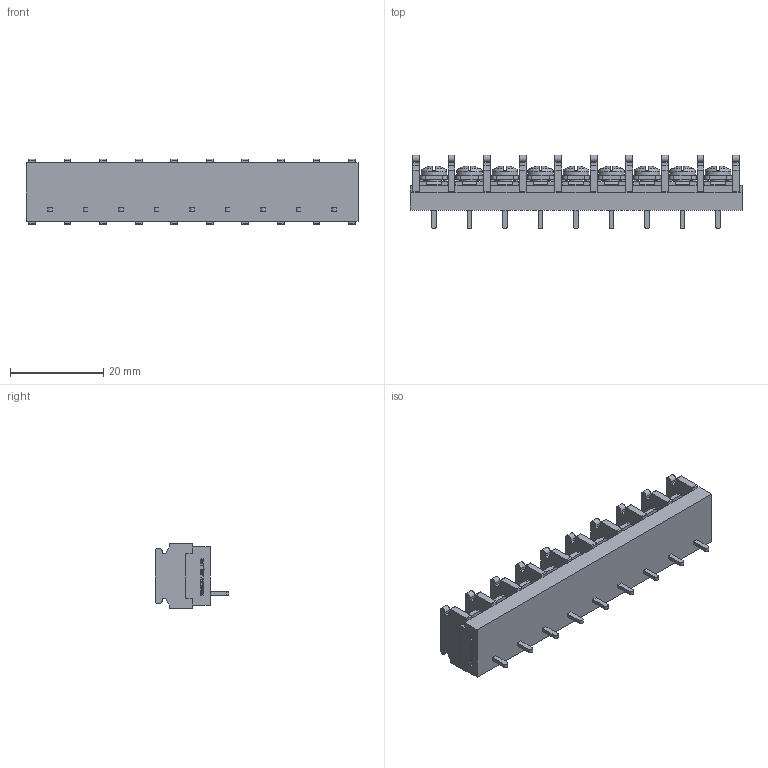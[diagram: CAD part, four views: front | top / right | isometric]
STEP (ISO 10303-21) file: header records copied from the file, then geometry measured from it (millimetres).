
FILE_DESCRIPTION(/* description */ ('Alibre Inc.'),/* implementation_level */ '2;1');
FILE_NAME(/* name */ 'export0',/* time_stamp */ '2015-10-23T19:30:23+09:00',/* author */ (''),/* organization */ (''),/* preprocessor_version */ 'ST-DEVELOPER v14',/* originating_system */ 'Alibre',/* authorisation */ '');
FILE_SCHEMA (('CONFIG_CONTROL_DESIGN'));
Length unit declared in the file: centimetre
Products named in the file (1): ID_1
Bounding box: 71.2 x 15.8 x 14 mm (x, y, z)
Volume: 6731.6 mm3; surface area: 6409.2 mm2
Topology: 1 solids, 1 shells, 1428 faces, 3929 edges, 2579 vertices
Faces by surface type: plane 1102, cylinder 150, bspline 104, cone 36, torus 18, sphere 18
Full cylindrical faces by diameter (mm): 3 x9, 5.5 x9
Entity records: 43168 total; most frequent: CARTESIAN_POINT 9414, ORIENTED_EDGE 7714, DIRECTION 5417, EDGE_CURVE 3857, VECTOR 2800, LINE 2800, VERTEX_POINT 2543, AXIS2_PLACEMENT_3D 1815
